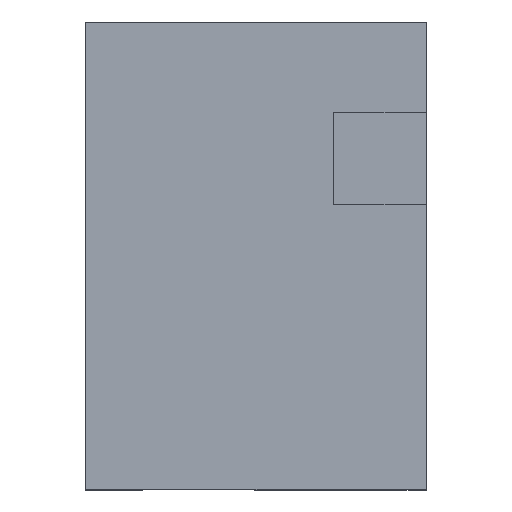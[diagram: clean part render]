
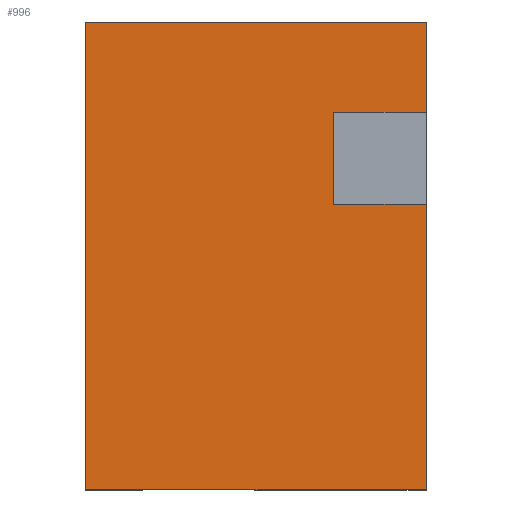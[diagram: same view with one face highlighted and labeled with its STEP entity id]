
A CAD part, top view. The second image highlights one B-rep face of the part: STEP entity #996.
In plain terms, the highlighted planar face has unit normal (0, 0, 1).
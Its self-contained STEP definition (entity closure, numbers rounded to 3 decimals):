
#44 = PLANE('',#45);
#45 = AXIS2_PLACEMENT_3D('',#46,#47,#48);
#46 = CARTESIAN_POINT('',(0.,0.,0.));
#47 = DIRECTION('',(-0.,1.,0.));
#48 = DIRECTION('',(0.,0.,1.));
#100 = PLANE('',#101);
#101 = AXIS2_PLACEMENT_3D('',#102,#103,#104);
#102 = CARTESIAN_POINT('',(0.,27.779,0.));
#103 = DIRECTION('',(-0.,1.,0.));
#104 = DIRECTION('',(0.,0.,1.));
#217 = VERTEX_POINT('',#218);
#218 = CARTESIAN_POINT('',(0.,0.,32.136));
#232 = PLANE('',#233);
#233 = AXIS2_PLACEMENT_3D('',#234,#235,#236);
#234 = CARTESIAN_POINT('',(0.,0.,0.));
#235 = DIRECTION('',(1.,0.,-0.));
#236 = DIRECTION('',(0.,0.,1.));
#244 = EDGE_CURVE('',#217,#245,#247,.T.);
#245 = VERTEX_POINT('',#246);
#246 = CARTESIAN_POINT('',(20.231,0.,32.136));
#247 = SURFACE_CURVE('',#248,(#252,#259),.PCURVE_S1.);
#248 = LINE('',#249,#250);
#249 = CARTESIAN_POINT('',(0.,0.,32.136));
#250 = VECTOR('',#251,1.);
#251 = DIRECTION('',(1.,0.,-0.));
#252 = PCURVE('',#44,#253);
#253 = DEFINITIONAL_REPRESENTATION('',(#254),#258);
#254 = LINE('',#255,#256);
#255 = CARTESIAN_POINT('',(32.136,0.));
#256 = VECTOR('',#257,1.);
#257 = DIRECTION('',(0.,1.));
#258 = ( GEOMETRIC_REPRESENTATION_CONTEXT(2) 
PARAMETRIC_REPRESENTATION_CONTEXT() REPRESENTATION_CONTEXT('2D SPACE',''
  ) );
#259 = PCURVE('',#260,#265);
#260 = PLANE('',#261);
#261 = AXIS2_PLACEMENT_3D('',#262,#263,#264);
#262 = CARTESIAN_POINT('',(0.,0.,32.136));
#263 = DIRECTION('',(0.,0.,1.));
#264 = DIRECTION('',(1.,0.,-0.));
#265 = DEFINITIONAL_REPRESENTATION('',(#266),#270);
#266 = LINE('',#267,#268);
#267 = CARTESIAN_POINT('',(0.,0.));
#268 = VECTOR('',#269,1.);
#269 = DIRECTION('',(1.,0.));
#270 = ( GEOMETRIC_REPRESENTATION_CONTEXT(2) 
PARAMETRIC_REPRESENTATION_CONTEXT() REPRESENTATION_CONTEXT('2D SPACE',''
  ) );
#288 = PLANE('',#289);
#289 = AXIS2_PLACEMENT_3D('',#290,#291,#292);
#290 = CARTESIAN_POINT('',(20.231,0.,0.));
#291 = DIRECTION('',(1.,0.,-0.));
#292 = DIRECTION('',(0.,0.,1.));
#626 = VERTEX_POINT('',#627);
#627 = CARTESIAN_POINT('',(0.,27.779,32.136));
#648 = EDGE_CURVE('',#626,#649,#651,.T.);
#649 = VERTEX_POINT('',#650);
#650 = CARTESIAN_POINT('',(20.231,27.779,
    32.136));
#651 = SURFACE_CURVE('',#652,(#656,#663),.PCURVE_S1.);
#652 = LINE('',#653,#654);
#653 = CARTESIAN_POINT('',(0.,27.779,32.136));
#654 = VECTOR('',#655,1.);
#655 = DIRECTION('',(1.,0.,-0.));
#656 = PCURVE('',#100,#657);
#657 = DEFINITIONAL_REPRESENTATION('',(#658),#662);
#658 = LINE('',#659,#660);
#659 = CARTESIAN_POINT('',(32.136,0.));
#660 = VECTOR('',#661,1.);
#661 = DIRECTION('',(0.,1.));
#662 = ( GEOMETRIC_REPRESENTATION_CONTEXT(2) 
PARAMETRIC_REPRESENTATION_CONTEXT() REPRESENTATION_CONTEXT('2D SPACE',''
  ) );
#663 = PCURVE('',#260,#664);
#664 = DEFINITIONAL_REPRESENTATION('',(#665),#669);
#665 = LINE('',#666,#667);
#666 = CARTESIAN_POINT('',(0.,27.779));
#667 = VECTOR('',#668,1.);
#668 = DIRECTION('',(1.,0.));
#669 = ( GEOMETRIC_REPRESENTATION_CONTEXT(2) 
PARAMETRIC_REPRESENTATION_CONTEXT() REPRESENTATION_CONTEXT('2D SPACE',''
  ) );
#949 = EDGE_CURVE('',#217,#626,#950,.T.);
#950 = SURFACE_CURVE('',#951,(#955,#962),.PCURVE_S1.);
#951 = LINE('',#952,#953);
#952 = CARTESIAN_POINT('',(0.,0.,32.136));
#953 = VECTOR('',#954,1.);
#954 = DIRECTION('',(-0.,1.,0.));
#955 = PCURVE('',#232,#956);
#956 = DEFINITIONAL_REPRESENTATION('',(#957),#961);
#957 = LINE('',#958,#959);
#958 = CARTESIAN_POINT('',(32.136,0.));
#959 = VECTOR('',#960,1.);
#960 = DIRECTION('',(0.,-1.));
#961 = ( GEOMETRIC_REPRESENTATION_CONTEXT(2) 
PARAMETRIC_REPRESENTATION_CONTEXT() REPRESENTATION_CONTEXT('2D SPACE',''
  ) );
#962 = PCURVE('',#260,#963);
#963 = DEFINITIONAL_REPRESENTATION('',(#964),#968);
#964 = LINE('',#965,#966);
#965 = CARTESIAN_POINT('',(0.,0.));
#966 = VECTOR('',#967,1.);
#967 = DIRECTION('',(0.,1.));
#968 = ( GEOMETRIC_REPRESENTATION_CONTEXT(2) 
PARAMETRIC_REPRESENTATION_CONTEXT() REPRESENTATION_CONTEXT('2D SPACE',''
  ) );
#996 = ADVANCED_FACE('f011',(#997),#260,.T.);
#997 = FACE_BOUND('',#998,.T.);
#998 = EDGE_LOOP('',(#999,#1000,#1001,#1002,#1025,#1053,#1081,#1109));
#999 = ORIENTED_EDGE('',*,*,#648,.F.);
#1000 = ORIENTED_EDGE('',*,*,#949,.F.);
#1001 = ORIENTED_EDGE('',*,*,#244,.T.);
#1002 = ORIENTED_EDGE('',*,*,#1003,.T.);
#1003 = EDGE_CURVE('',#245,#1004,#1006,.T.);
#1004 = VERTEX_POINT('',#1005);
#1005 = CARTESIAN_POINT('',(20.231,16.946,
    32.136));
#1006 = SURFACE_CURVE('',#1007,(#1011,#1018),.PCURVE_S1.);
#1007 = LINE('',#1008,#1009);
#1008 = CARTESIAN_POINT('',(20.231,0.,32.136));
#1009 = VECTOR('',#1010,1.);
#1010 = DIRECTION('',(-0.,1.,0.));
#1011 = PCURVE('',#260,#1012);
#1012 = DEFINITIONAL_REPRESENTATION('',(#1013),#1017);
#1013 = LINE('',#1014,#1015);
#1014 = CARTESIAN_POINT('',(20.231,0.));
#1015 = VECTOR('',#1016,1.);
#1016 = DIRECTION('',(0.,1.));
#1017 = ( GEOMETRIC_REPRESENTATION_CONTEXT(2) 
PARAMETRIC_REPRESENTATION_CONTEXT() REPRESENTATION_CONTEXT('2D SPACE',''
  ) );
#1018 = PCURVE('',#288,#1019);
#1019 = DEFINITIONAL_REPRESENTATION('',(#1020),#1024);
#1020 = LINE('',#1021,#1022);
#1021 = CARTESIAN_POINT('',(32.136,0.));
#1022 = VECTOR('',#1023,1.);
#1023 = DIRECTION('',(0.,-1.));
#1024 = ( GEOMETRIC_REPRESENTATION_CONTEXT(2) 
PARAMETRIC_REPRESENTATION_CONTEXT() REPRESENTATION_CONTEXT('2D SPACE',''
  ) );
#1025 = ORIENTED_EDGE('',*,*,#1026,.F.);
#1026 = EDGE_CURVE('',#1027,#1004,#1029,.T.);
#1027 = VERTEX_POINT('',#1028);
#1028 = CARTESIAN_POINT('',(14.749,16.946,
    32.136));
#1029 = SURFACE_CURVE('',#1030,(#1034,#1041),.PCURVE_S1.);
#1030 = LINE('',#1031,#1032);
#1031 = CARTESIAN_POINT('',(14.749,16.946,
    32.136));
#1032 = VECTOR('',#1033,1.);
#1033 = DIRECTION('',(1.,0.,0.));
#1034 = PCURVE('',#260,#1035);
#1035 = DEFINITIONAL_REPRESENTATION('',(#1036),#1040);
#1036 = LINE('',#1037,#1038);
#1037 = CARTESIAN_POINT('',(14.749,16.946));
#1038 = VECTOR('',#1039,1.);
#1039 = DIRECTION('',(1.,0.));
#1040 = ( GEOMETRIC_REPRESENTATION_CONTEXT(2) 
PARAMETRIC_REPRESENTATION_CONTEXT() REPRESENTATION_CONTEXT('2D SPACE',''
  ) );
#1041 = PCURVE('',#1042,#1047);
#1042 = PLANE('',#1043);
#1043 = AXIS2_PLACEMENT_3D('',#1044,#1045,#1046);
#1044 = CARTESIAN_POINT('',(14.749,16.946,
    32.136));
#1045 = DIRECTION('',(0.,-1.,0.));
#1046 = DIRECTION('',(1.,0.,0.));
#1047 = DEFINITIONAL_REPRESENTATION('',(#1048),#1052);
#1048 = LINE('',#1049,#1050);
#1049 = CARTESIAN_POINT('',(0.,0.));
#1050 = VECTOR('',#1051,1.);
#1051 = DIRECTION('',(1.,0.));
#1052 = ( GEOMETRIC_REPRESENTATION_CONTEXT(2) 
PARAMETRIC_REPRESENTATION_CONTEXT() REPRESENTATION_CONTEXT('2D SPACE',''
  ) );
#1053 = ORIENTED_EDGE('',*,*,#1054,.F.);
#1054 = EDGE_CURVE('',#1055,#1027,#1057,.T.);
#1055 = VERTEX_POINT('',#1056);
#1056 = CARTESIAN_POINT('',(14.749,22.425,
    32.136));
#1057 = SURFACE_CURVE('',#1058,(#1062,#1069),.PCURVE_S1.);
#1058 = LINE('',#1059,#1060);
#1059 = CARTESIAN_POINT('',(14.749,22.425,
    32.136));
#1060 = VECTOR('',#1061,1.);
#1061 = DIRECTION('',(0.,-1.,0.));
#1062 = PCURVE('',#260,#1063);
#1063 = DEFINITIONAL_REPRESENTATION('',(#1064),#1068);
#1064 = LINE('',#1065,#1066);
#1065 = CARTESIAN_POINT('',(14.749,22.425));
#1066 = VECTOR('',#1067,1.);
#1067 = DIRECTION('',(0.,-1.));
#1068 = ( GEOMETRIC_REPRESENTATION_CONTEXT(2) 
PARAMETRIC_REPRESENTATION_CONTEXT() REPRESENTATION_CONTEXT('2D SPACE',''
  ) );
#1069 = PCURVE('',#1070,#1075);
#1070 = PLANE('',#1071);
#1071 = AXIS2_PLACEMENT_3D('',#1072,#1073,#1074);
#1072 = CARTESIAN_POINT('',(14.749,22.425,
    32.136));
#1073 = DIRECTION('',(-1.,0.,0.));
#1074 = DIRECTION('',(0.,-1.,0.));
#1075 = DEFINITIONAL_REPRESENTATION('',(#1076),#1080);
#1076 = LINE('',#1077,#1078);
#1077 = CARTESIAN_POINT('',(0.,0.));
#1078 = VECTOR('',#1079,1.);
#1079 = DIRECTION('',(1.,0.));
#1080 = ( GEOMETRIC_REPRESENTATION_CONTEXT(2) 
PARAMETRIC_REPRESENTATION_CONTEXT() REPRESENTATION_CONTEXT('2D SPACE',''
  ) );
#1081 = ORIENTED_EDGE('',*,*,#1082,.F.);
#1082 = EDGE_CURVE('',#1083,#1055,#1085,.T.);
#1083 = VERTEX_POINT('',#1084);
#1084 = CARTESIAN_POINT('',(20.231,22.425,
    32.136));
#1085 = SURFACE_CURVE('',#1086,(#1090,#1097),.PCURVE_S1.);
#1086 = LINE('',#1087,#1088);
#1087 = CARTESIAN_POINT('',(20.231,22.425,
    32.136));
#1088 = VECTOR('',#1089,1.);
#1089 = DIRECTION('',(-1.,0.,0.));
#1090 = PCURVE('',#260,#1091);
#1091 = DEFINITIONAL_REPRESENTATION('',(#1092),#1096);
#1092 = LINE('',#1093,#1094);
#1093 = CARTESIAN_POINT('',(20.231,22.425));
#1094 = VECTOR('',#1095,1.);
#1095 = DIRECTION('',(-1.,0.));
#1096 = ( GEOMETRIC_REPRESENTATION_CONTEXT(2) 
PARAMETRIC_REPRESENTATION_CONTEXT() REPRESENTATION_CONTEXT('2D SPACE',''
  ) );
#1097 = PCURVE('',#1098,#1103);
#1098 = PLANE('',#1099);
#1099 = AXIS2_PLACEMENT_3D('',#1100,#1101,#1102);
#1100 = CARTESIAN_POINT('',(20.231,22.425,
    32.136));
#1101 = DIRECTION('',(0.,1.,-0.));
#1102 = DIRECTION('',(-1.,0.,0.));
#1103 = DEFINITIONAL_REPRESENTATION('',(#1104),#1108);
#1104 = LINE('',#1105,#1106);
#1105 = CARTESIAN_POINT('',(0.,0.));
#1106 = VECTOR('',#1107,1.);
#1107 = DIRECTION('',(1.,0.));
#1108 = ( GEOMETRIC_REPRESENTATION_CONTEXT(2) 
PARAMETRIC_REPRESENTATION_CONTEXT() REPRESENTATION_CONTEXT('2D SPACE',''
  ) );
#1109 = ORIENTED_EDGE('',*,*,#1110,.T.);
#1110 = EDGE_CURVE('',#1083,#649,#1111,.T.);
#1111 = SURFACE_CURVE('',#1112,(#1116,#1123),.PCURVE_S1.);
#1112 = LINE('',#1113,#1114);
#1113 = CARTESIAN_POINT('',(20.231,0.,32.136));
#1114 = VECTOR('',#1115,1.);
#1115 = DIRECTION('',(-0.,1.,0.));
#1116 = PCURVE('',#260,#1117);
#1117 = DEFINITIONAL_REPRESENTATION('',(#1118),#1122);
#1118 = LINE('',#1119,#1120);
#1119 = CARTESIAN_POINT('',(20.231,0.));
#1120 = VECTOR('',#1121,1.);
#1121 = DIRECTION('',(0.,1.));
#1122 = ( GEOMETRIC_REPRESENTATION_CONTEXT(2) 
PARAMETRIC_REPRESENTATION_CONTEXT() REPRESENTATION_CONTEXT('2D SPACE',''
  ) );
#1123 = PCURVE('',#288,#1124);
#1124 = DEFINITIONAL_REPRESENTATION('',(#1125),#1129);
#1125 = LINE('',#1126,#1127);
#1126 = CARTESIAN_POINT('',(32.136,0.));
#1127 = VECTOR('',#1128,1.);
#1128 = DIRECTION('',(0.,-1.));
#1129 = ( GEOMETRIC_REPRESENTATION_CONTEXT(2) 
PARAMETRIC_REPRESENTATION_CONTEXT() REPRESENTATION_CONTEXT('2D SPACE',''
  ) );
